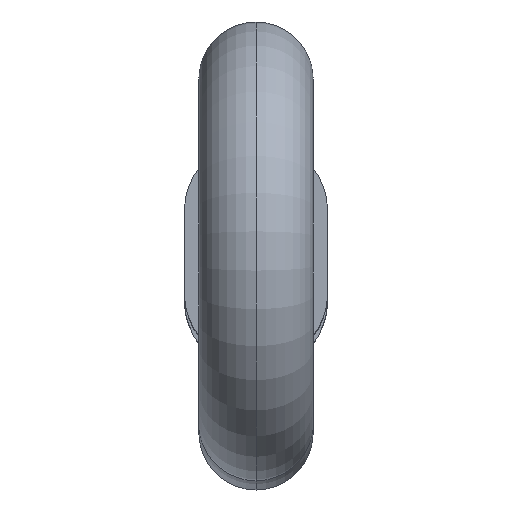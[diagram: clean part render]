
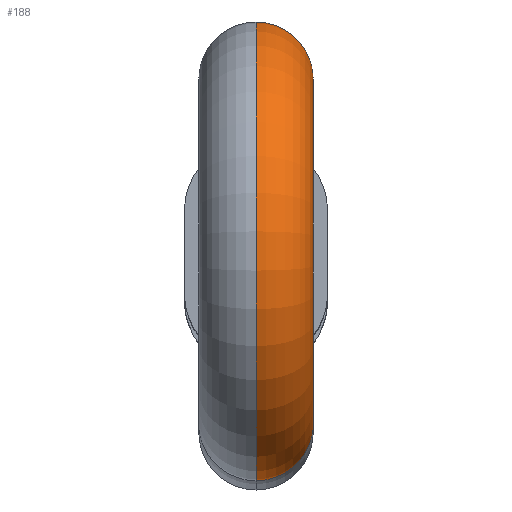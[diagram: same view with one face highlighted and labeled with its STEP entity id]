
A CAD part, top view. The second image highlights one B-rep face of the part: STEP entity #188.
In plain terms, the highlighted toroidal (fillet/blend) face has major radius 4.8 mm and minor radius 1.59 mm.
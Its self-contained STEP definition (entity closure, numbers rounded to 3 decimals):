
#5 = DIRECTION ( 'NONE',  ( 0., 0., -1. ) ) ;
#22 = FACE_OUTER_BOUND ( 'NONE', #977, .T. ) ;
#31 = CIRCLE ( 'NONE', #739, 6.39 ) ;
#38 = CARTESIAN_POINT ( 'NONE',  ( 0., 1.259, 74.06 ) ) ;
#55 = EDGE_CURVE ( 'NONE', #1003, #658, #31, .T. ) ;
#64 = CARTESIAN_POINT ( 'NONE',  ( 0., -1.133, 76.2 ) ) ;
#74 = EDGE_CURVE ( 'NONE', #914, #1003, #964, .T. ) ;
#81 = CARTESIAN_POINT ( 'NONE',  ( 0., -5.896, 71.94 ) ) ;
#123 = CARTESIAN_POINT ( 'NONE',  ( 0., -1.133, 76.2 ) ) ;
#143 = DIRECTION ( 'NONE',  ( 0., 0.667, -0.745 ) ) ;
#145 = CARTESIAN_POINT ( 'NONE',  ( 0., -4.711, 73. ) ) ;
#146 = ORIENTED_EDGE ( 'NONE', *, *, #615, .F. ) ;
#155 = CIRCLE ( 'NONE', #887, 1.59 ) ;
#162 = CARTESIAN_POINT ( 'NONE',  ( 0., -3.526, 74.06 ) ) ;
#188 = ADVANCED_FACE ( 'NONE', ( #22 ), #721, .T. ) ;
#205 = AXIS2_PLACEMENT_3D ( 'NONE', #318, #941, #233 ) ;
#233 = DIRECTION ( 'NONE',  ( 1., 0., 0. ) ) ;
#254 = DIRECTION ( 'NONE',  ( 0., 0., -1. ) ) ;
#276 = CIRCLE ( 'NONE', #1017, 3.21 ) ;
#310 = ORIENTED_EDGE ( 'NONE', *, *, #55, .T. ) ;
#318 = CARTESIAN_POINT ( 'NONE',  ( 0., 2.445, 73. ) ) ;
#428 = ORIENTED_EDGE ( 'NONE', *, *, #619, .F. ) ;
#514 = DIRECTION ( 'NONE',  ( 1., 0., 0. ) ) ;
#592 = AXIS2_PLACEMENT_3D ( 'NONE', #738, #514, #254 ) ;
#615 = EDGE_CURVE ( 'NONE', #914, #634, #276, .T. ) ;
#619 = EDGE_CURVE ( 'NONE', #634, #658, #155, .T. ) ;
#634 = VERTEX_POINT ( 'NONE', #162 ) ;
#658 = VERTEX_POINT ( 'NONE', #81 ) ;
#680 = DIRECTION ( 'NONE',  ( 1., 0., 0. ) ) ;
#721 = TOROIDAL_SURFACE ( 'NONE', #592, 4.8, 1.59 ) ;
#730 = ORIENTED_EDGE ( 'NONE', *, *, #74, .T. ) ;
#738 = CARTESIAN_POINT ( 'NONE',  ( 0., -1.133, 76.2 ) ) ;
#739 = AXIS2_PLACEMENT_3D ( 'NONE', #64, #865, #5 ) ;
#781 = CARTESIAN_POINT ( 'NONE',  ( 0., 3.63, 71.94 ) ) ;
#790 = DIRECTION ( 'NONE',  ( 1., 0., 0. ) ) ;
#865 = DIRECTION ( 'NONE',  ( 1., 0., 0. ) ) ;
#887 = AXIS2_PLACEMENT_3D ( 'NONE', #145, #143, #790 ) ;
#914 = VERTEX_POINT ( 'NONE', #38 ) ;
#941 = DIRECTION ( 'NONE',  ( 0., 0.667, 0.745 ) ) ;
#964 = CIRCLE ( 'NONE', #205, 1.59 ) ;
#977 = EDGE_LOOP ( 'NONE', ( #730, #310, #428, #146 ) ) ;
#995 = DIRECTION ( 'NONE',  ( 0., 0., -1. ) ) ;
#1003 = VERTEX_POINT ( 'NONE', #781 ) ;
#1017 = AXIS2_PLACEMENT_3D ( 'NONE', #123, #680, #995 ) ;
